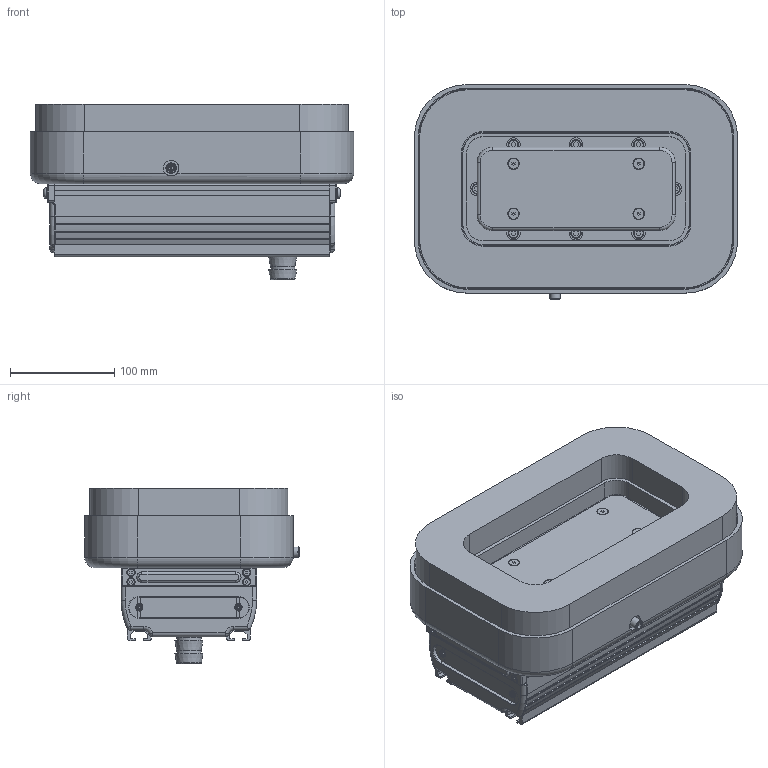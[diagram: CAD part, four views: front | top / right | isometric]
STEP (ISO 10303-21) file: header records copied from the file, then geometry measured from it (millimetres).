
FILE_DESCRIPTION(('STEP AP214'),'1');
FILE_NAME('.stp','2021-08-19T02:55:54',(' '),(' '),'Spatial InterOp 3D',' ',' ');
FILE_SCHEMA(('AUTOMOTIVE_DESIGN { 1 0 10303 214 1 1 1 1 }'));
Length unit declared in the file: millimetre
Products named in the file (92): Body Assy; SGP-000-3104(サイドカバーA); M4*10_____; _NKJ4-10; SGP-000-3105(サイドカバーB); M4*12 __________; M4*12 シールキャップボルト; CTX-0429-3001 Body; Joint Base Assy; プラグ; Fitting25; M5_10CP; ねじ : 穴付き - M5.0 x 10.0; M4_20CP; ねじ: 穴付き - M4.0 x 20.0; Joint Base; SGP-000-3107 02(上面カバー); SGP-H190*300-CRT30; Base Assy; Base S; S ring; Spomzi; CB6; ねじ: 穴付き - M6.0 x 20.0; shaft 03; ねじ: 穴付き - M6.0 x 12.0; stopper; Needle Assy; Needle; LockNut; CBSTS6-12
Assembly tree (91 placements, depth 5):
  SGP-H190*300-CRT30
    Body Assy
      SGP-000-3104(サイドカバーA)
      M4*10_____
        _NKJ4-10
        _NKJ4-10
      M4*10_____
        _NKJ4-10
        _NKJ4-10
      SGP-000-3105(サイドカバーB)
      SGP-000-3105(サイドカバーB)
      M4*12 __________
        M4*12 シールキャップボルト
        M4*12 シールキャップボルト
        M4*12 シールキャップボルト
        M4*12 シールキャップボルト
      SGP-000-3104(サイドカバーA)
      M4*12 __________
        M4*12 シールキャップボルト
        M4*12 シールキャップボルト
        M4*12 シールキャップボルト
        M4*12 シールキャップボルト
      CTX-0429-3001 Body
      Joint Base Assy
        プラグ
        Fitting25
        M5_10CP
          ねじ : 穴付き - M5.0 x 10.0
        M5_10CP
          ねじ : 穴付き - M5.0 x 10.0
        M5_10CP
          ねじ : 穴付き - M5.0 x 10.0
        M5_10CP
          ねじ : 穴付き - M5.0 x 10.0
        M4_20CP
          ねじ: 穴付き - M4.0 x 20.0
        M4_20CP
          ねじ: 穴付き - M4.0 x 20.0
        M4_20CP
          ねじ: 穴付き - M4.0 x 20.0
        M4_20CP
          ねじ: 穴付き - M4.0 x 20.0
        M4_20CP
          ねじ: 穴付き - M4.0 x 20.0
        M4_20CP
          ねじ: 穴付き - M4.0 x 20.0
        Joint Base
      SGP-000-3107 02(上面カバー)
    Base Assy
      Base S
      S ring
      Spomzi
      CB6
        ねじ: 穴付き - M6.0 x 20.0
      CB6
        ねじ: 穴付き - M6.0 x 20.0
      CB6
        ねじ: 穴付き - M6.0 x 20.0
      CB6
        ねじ: 穴付き - M6.0 x 20.0
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Bounding box: 310 x 206 x 168.2 mm (x, y, z)
Volume: 3891177.1 mm3; surface area: 880800.1 mm2
Topology: 59 solids, 59 shells, 1435 faces, 3324 edges, 2135 vertices
Faces by surface type: plane 855, cylinder 406, cone 123, torus 41, sphere 10
Full cylindrical faces by diameter (mm): 2.5 x4, 3.3 x6, 3.35 x1, 3.571 x4, 4 x18, 4.4 x6, 4.5 x8, 4.9 x2, 5 x12, 5.5 x12, 6 x41, 6.5 x1, 6.9 x6, 7 x27, 8 x14, 8.385 x4, 9 x1, 9.87 x14, 10 x6, 11 x4, 13 x8, 15 x11, 20 x5, 23.474 x2, 27 x3, 54 x1
Entity records: 52633 total; most frequent: CARTESIAN_POINT 7176, DIRECTION 7029, ORIENTED_EDGE 5750, EDGE_CURVE 2875, AXIS2_PLACEMENT_3D 2648, EDGE_LOOP 2073, VERTEX_POINT 2070, LINE 1733
